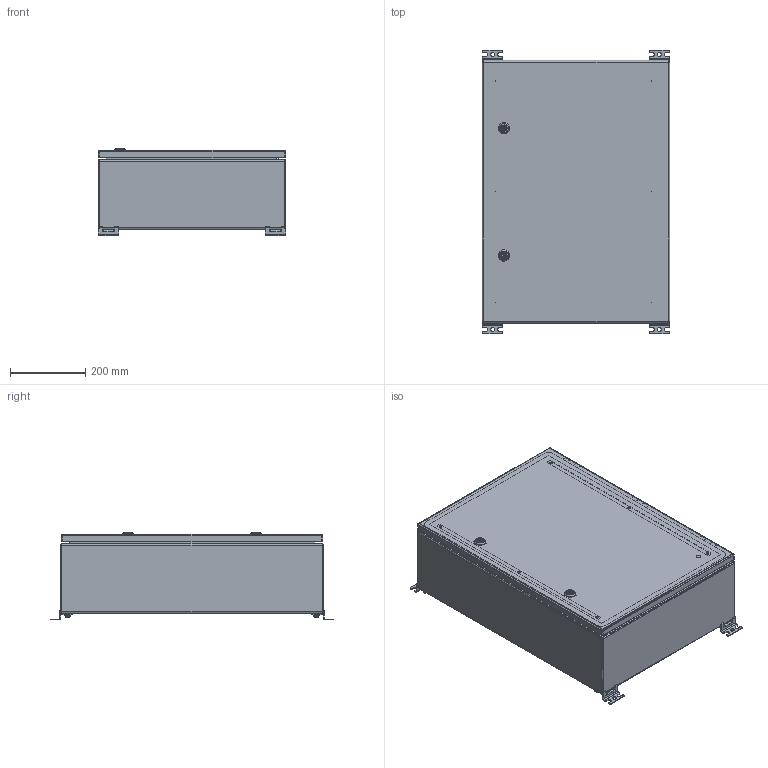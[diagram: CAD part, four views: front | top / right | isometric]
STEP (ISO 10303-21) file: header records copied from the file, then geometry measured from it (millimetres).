
FILE_DESCRIPTION(('STEP AP242'), '1');
FILE_NAME('400 ﾙﾌﾏ-1 (IP-56)', '', ('UNSPECIFIED'), ('UNSPECIFIED'), 'C3D Converter', 'C3D Toolkit', '');
FILE_SCHEMA(('AP242_MANAGED_MODEL_BASED_3D_ENGINEERING_MIM_LF { 1 0 10303 442 1 1 4 }'));
Length unit declared in the file: millimetre
Products named in the file (36): ЩМП-1 СБ; 410; 420; 421; 411; 412; 490; 491; 401; 440; 441; 402
Assembly tree (97 placements, depth 4):
  ЩМП-1 СБ
    410
      420
        421
        (unnamed)  x6
        (unnamed)
      411
      412
    490  x2
      491
      (unnamed)
      (unnamed)
      (unnamed)
      (unnamed)
      (unnamed)
    490  x2
      491
      (unnamed)
      (unnamed)
      (unnamed)
      (unnamed)
      (unnamed)
    401
    (unnamed)  x6
    (unnamed)  x6
    (unnamed)  x6
    (unnamed)  x3
      (unnamed)
      (unnamed)
      (unnamed)
    (unnamed)  x6
    440
      441
      (unnamed)
      (unnamed)  x6
      (unnamed)  x3
    402  x2
    (unnamed)  x6
    (unnamed)  x6
    (unnamed)  x2
      (unnamed)
      (unnamed)
      (unnamed)
      (unnamed)
      (unnamed)
    (unnamed)  x2
Bounding box: 500 x 756 x 233.1 mm (x, y, z)
Volume: 2927885.9 mm3; surface area: 3504345.8 mm2
Topology: 113 solids, 113 shells, 2395 faces, 5722 edges, 3614 vertices
Faces by surface type: plane 1327, cylinder 712, cone 210, extrusion 54, bspline 32, torus 30, sphere 30
Full cylindrical faces by diameter (mm): 0.5 x6, 2.6 x8, 3.5 x88, 4.2 x6, 4.917 x6, 5 x8, 5.5 x6, 5.8 x2, 6 x22, 6.4 x6, 6.647 x10, 7 x9, 7.3 x6, 7.5 x9, 8 x13, 8.4 x10, 8.5 x18, 9 x8, 10 x12, 10.4 x2, 10.5 x6, 11 x12, 11.4 x1, 11.5 x6, 12 x2, 12.3 x4, 15 x10, 15.5 x4, 15.8 x2, 16 x8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
Entity records: 64557 total; most frequent: CARTESIAN_POINT 34601, DIRECTION 4904, ORIENTED_EDGE 4748, EDGE_CURVE 2374, AXIS2_PLACEMENT_3D 1782, VERTEX_POINT 1582, EDGE_LOOP 1386, VECTOR 1340
